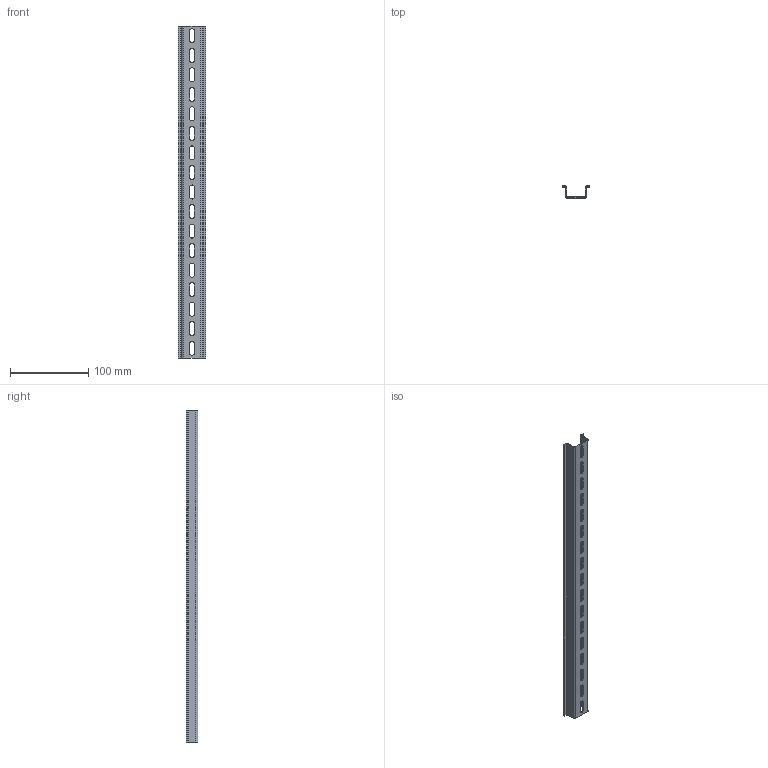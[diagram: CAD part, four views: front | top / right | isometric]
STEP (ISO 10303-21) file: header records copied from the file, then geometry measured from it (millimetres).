
FILE_DESCRIPTION(('STEP AP203'), '1');
FILE_NAME('DR 15.425 DIN-ðåéêà', '2018-06-05T05:53:24', (' '), (''), 'ASCON STEP Converter 1.3', 'ASCON Math Kernel', '');
FILE_SCHEMA(('CONFIG_CONTROL_DESIGN'));
Length unit declared in the file: millimetre
Products named in the file (1): DR 15.425
Bounding box: 35 x 15 x 425 mm (x, y, z)
Volume: 28304.4 mm3; surface area: 49210.9 mm2
Topology: 1 solids, 1 shells, 106 faces, 280 edges, 176 vertices
Faces by surface type: plane 64, cylinder 42
Entity records: 4212 total; most frequent: DIRECTION 578, CARTESIAN_POINT 563, ORIENTED_EDGE 560, EDGE_CURVE 280, LINE 196, VECTOR 196, AXIS2_PLACEMENT_3D 191, VERTEX_POINT 176
